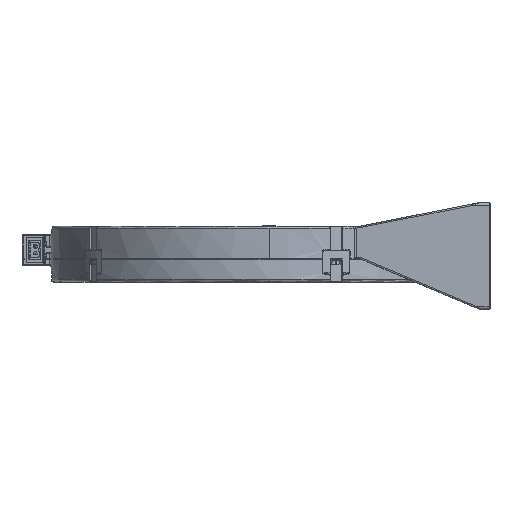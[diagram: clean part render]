
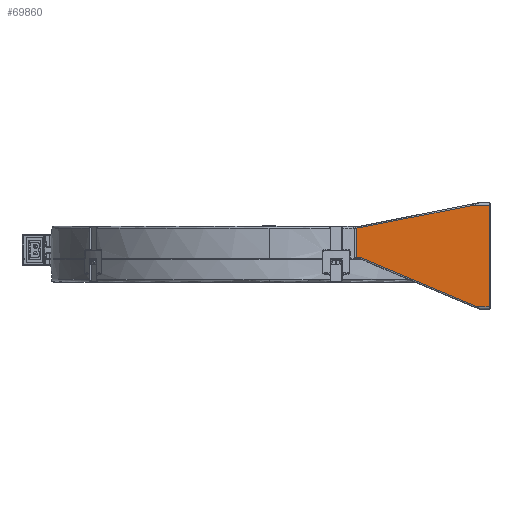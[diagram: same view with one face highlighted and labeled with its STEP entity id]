
A CAD part, left-side view. The second image highlights one B-rep face of the part: STEP entity #69860.
In plain terms, the highlighted planar face has unit normal (-1, 0, 0).
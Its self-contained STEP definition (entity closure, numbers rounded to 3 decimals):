
#181 = EDGE_CURVE ( 'NONE', #60855, #9179, #5092, .T. ) ;
#1642 = CARTESIAN_POINT ( 'NONE',  ( -138.6, 31.089, 34.468 ) ) ;
#2152 = CARTESIAN_POINT ( 'NONE',  ( -138.6, 98.612, 1. ) ) ;
#3135 = CARTESIAN_POINT ( 'NONE',  ( -138.6, 12.75, 37. ) ) ;
#3537 = B_SPLINE_CURVE_WITH_KNOTS ( 'NONE', 3,
 ( #59252, #25400, #31478, #58565, #32170, #37539, #48582, #20037 ),
 .UNSPECIFIED., .F., .F.,
 ( 4, 2, 2, 4 ),
 ( 0., 0.022, 0.044, 0.087 ),
 .UNSPECIFIED. ) ;
#4159 = CARTESIAN_POINT ( 'NONE',  ( -138.6, 98.636, 21.437 ) ) ;
#4679 = FACE_OUTER_BOUND ( 'NONE', #7619, .T. ) ;
#5092 = B_SPLINE_CURVE_WITH_KNOTS ( 'NONE', 3,
 ( #31651, #4159, #10528, #14849 ),
 .UNSPECIFIED., .F., .F.,
 ( 4, 4 ),
 ( 0., 0.001 ),
 .UNSPECIFIED. ) ;
#5727 = CARTESIAN_POINT ( 'NONE',  ( -138.6, 5.75, -27.5 ) ) ;
#5955 = DIRECTION ( 'NONE',  ( 0., 0., 1. ) ) ;
#6644 = ORIENTED_EDGE ( 'NONE', *, *, #22819, .T. ) ;
#7280 = LINE ( 'NONE', #52612, #27319 ) ;
#7619 = EDGE_LOOP ( 'NONE', ( #31202, #14490, #69138, #52052, #59746, #6644, #9681, #46904, #37687 ) ) ;
#7714 = VECTOR ( 'NONE', #5955, 1000. ) ;
#8747 = VERTEX_POINT ( 'NONE', #31374 ) ;
#9179 = VERTEX_POINT ( 'NONE', #57256 ) ;
#9421 = DIRECTION ( 'NONE',  ( 0., 0., -1. ) ) ;
#9591 = AXIS2_PLACEMENT_3D ( 'NONE', #5727, #10383, #27890 ) ;
#9681 = ORIENTED_EDGE ( 'NONE', *, *, #20429, .T. ) ;
#10383 = DIRECTION ( 'NONE',  ( 1., 0., 0. ) ) ;
#10474 = CARTESIAN_POINT ( 'NONE',  ( -138.6, 98.612, 1. ) ) ;
#10528 = CARTESIAN_POINT ( 'NONE',  ( -138.6, 98.612, 21.27 ) ) ;
#11079 = PLANE ( 'NONE',  #9591 ) ;
#13806 = DIRECTION ( 'NONE',  ( 0., 1., 0. ) ) ;
#14490 = ORIENTED_EDGE ( 'NONE', *, *, #181, .T. ) ;
#14849 = CARTESIAN_POINT ( 'NONE',  ( -138.6, 98.612, 21.1 ) ) ;
#17572 = VERTEX_POINT ( 'NONE', #26407 ) ;
#19521 = LINE ( 'NONE', #3135, #37091 ) ;
#20037 = CARTESIAN_POINT ( 'NONE',  ( -138.6, 15.147, -33. ) ) ;
#20429 = EDGE_CURVE ( 'NONE', #63649, #48492, #64839, .T. ) ;
#20557 = B_SPLINE_CURVE_WITH_KNOTS ( 'NONE', 3,
 ( #29138, #1642, #44503, #44851, #49853, #50910 ),
 .UNSPECIFIED., .F., .F.,
 ( 4, 2, 4 ),
 ( 0., 0.04, 0.08 ),
 .UNSPECIFIED. ) ;
#21306 = CARTESIAN_POINT ( 'NONE',  ( -138.6, 5.75, -33. ) ) ;
#22819 = EDGE_CURVE ( 'NONE', #63717, #63649, #37414, .T. ) ;
#23859 = EDGE_CURVE ( 'NONE', #17572, #8747, #20557, .T. ) ;
#24140 = VERTEX_POINT ( 'NONE', #2152 ) ;
#25400 = CARTESIAN_POINT ( 'NONE',  ( -138.6, 89.032, -1.908 ) ) ;
#26212 = DIRECTION ( 'NONE',  ( 0., -1., 0. ) ) ;
#26407 = CARTESIAN_POINT ( 'NONE',  ( -138.6, 18.063, 37. ) ) ;
#27319 = VECTOR ( 'NONE', #36258, 1000. ) ;
#27389 = CARTESIAN_POINT ( 'NONE',  ( -138.6, 6.25, -33. ) ) ;
#27890 = DIRECTION ( 'NONE',  ( 0., 0., -1. ) ) ;
#29138 = CARTESIAN_POINT ( 'NONE',  ( -138.6, 18.063, 37. ) ) ;
#30566 = VERTEX_POINT ( 'NONE', #48277 ) ;
#31202 = ORIENTED_EDGE ( 'NONE', *, *, #50342, .T. ) ;
#31374 = CARTESIAN_POINT ( 'NONE',  ( -138.6, 96.182, 21.6 ) ) ;
#31478 = CARTESIAN_POINT ( 'NONE',  ( -138.6, 82.336, -4.785 ) ) ;
#31651 = CARTESIAN_POINT ( 'NONE',  ( -138.6, 98.683, 21.6 ) ) ;
#31927 = LINE ( 'NONE', #10474, #48501 ) ;
#32164 = EDGE_CURVE ( 'NONE', #30566, #63717, #3537, .T. ) ;
#32170 = CARTESIAN_POINT ( 'NONE',  ( -138.6, 62.217, -13.339 ) ) ;
#36258 = DIRECTION ( 'NONE',  ( 0., 1., 0. ) ) ;
#36703 = CARTESIAN_POINT ( 'NONE',  ( -138.6, 6.25, 37. ) ) ;
#37091 = VECTOR ( 'NONE', #13806, 1000. ) ;
#37414 = LINE ( 'NONE', #21306, #59283 ) ;
#37539 = CARTESIAN_POINT ( 'NONE',  ( -138.6, 42.066, -21.817 ) ) ;
#37687 = ORIENTED_EDGE ( 'NONE', *, *, #23859, .T. ) ;
#41114 = VECTOR ( 'NONE', #26212, 1000. ) ;
#44503 = CARTESIAN_POINT ( 'NONE',  ( -138.6, 44.114, 31.927 ) ) ;
#44851 = CARTESIAN_POINT ( 'NONE',  ( -138.6, 70.156, 26.806 ) ) ;
#44882 = EDGE_CURVE ( 'NONE', #48492, #17572, #19521, .T. ) ;
#46904 = ORIENTED_EDGE ( 'NONE', *, *, #44882, .T. ) ;
#48277 = CARTESIAN_POINT ( 'NONE',  ( -138.6, 95.714, 1. ) ) ;
#48492 = VERTEX_POINT ( 'NONE', #36703 ) ;
#48501 = VECTOR ( 'NONE', #9421, 1000. ) ;
#48582 = CARTESIAN_POINT ( 'NONE',  ( -138.6, 28.61, -27.418 ) ) ;
#49853 = CARTESIAN_POINT ( 'NONE',  ( -138.6, 83.174, 24.228 ) ) ;
#50342 = EDGE_CURVE ( 'NONE', #8747, #60855, #7280, .T. ) ;
#50910 = CARTESIAN_POINT ( 'NONE',  ( -138.6, 96.182, 21.6 ) ) ;
#52052 = ORIENTED_EDGE ( 'NONE', *, *, #58484, .T. ) ;
#52612 = CARTESIAN_POINT ( 'NONE',  ( -138.6, 5.75, 21.6 ) ) ;
#54041 = CARTESIAN_POINT ( 'NONE',  ( -138.6, 5.75, 1. ) ) ;
#54174 = CARTESIAN_POINT ( 'NONE',  ( -138.6, 6.25, -27.5 ) ) ;
#57256 = CARTESIAN_POINT ( 'NONE',  ( -138.6, 98.612, 21.1 ) ) ;
#58484 = EDGE_CURVE ( 'NONE', #24140, #30566, #59736, .T. ) ;
#58565 = CARTESIAN_POINT ( 'NONE',  ( -138.6, 68.929, -10.501 ) ) ;
#59252 = CARTESIAN_POINT ( 'NONE',  ( -138.6, 95.714, 1. ) ) ;
#59283 = VECTOR ( 'NONE', #64803, 1000. ) ;
#59590 = CARTESIAN_POINT ( 'NONE',  ( -138.6, 98.683, 21.6 ) ) ;
#59736 = LINE ( 'NONE', #54041, #41114 ) ;
#59746 = ORIENTED_EDGE ( 'NONE', *, *, #32164, .T. ) ;
#60855 = VERTEX_POINT ( 'NONE', #59590 ) ;
#63649 = VERTEX_POINT ( 'NONE', #27389 ) ;
#63717 = VERTEX_POINT ( 'NONE', #66584 ) ;
#64803 = DIRECTION ( 'NONE',  ( 0., -1., 0. ) ) ;
#64839 = LINE ( 'NONE', #54174, #7714 ) ;
#66584 = CARTESIAN_POINT ( 'NONE',  ( -138.6, 15.147, -33. ) ) ;
#69138 = ORIENTED_EDGE ( 'NONE', *, *, #70429, .T. ) ;
#69860 = ADVANCED_FACE ( 'NONE', ( #4679 ), #11079, .F. ) ;
#70429 = EDGE_CURVE ( 'NONE', #9179, #24140, #31927, .T. ) ;
